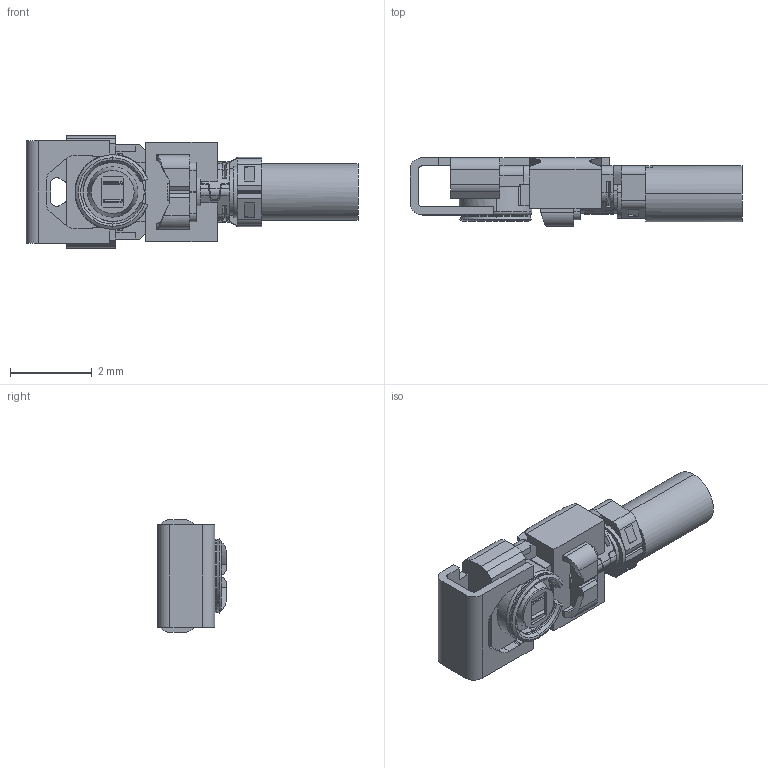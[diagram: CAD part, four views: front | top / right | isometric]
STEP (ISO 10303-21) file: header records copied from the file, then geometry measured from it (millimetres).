
FILE_DESCRIPTION (( 'STEP AP203' ), '1' );
FILE_NAME ('20632-001R-37+3615-000xC (UNLOCK) STEP R1R4 ALL.STEP', '2023-11-07T04:36:21', ( '' ), ( '' ), 'SwSTEP 2.0', 'SolidWorks 2023', '' );
FILE_SCHEMA (( 'CONFIG_CONTROL_DESIGN' ));
Length unit declared in the file: millimetre
Products named in the file (1): 20632-001R-37+3615-000xC (UNLOCK) STEP R1R4 ALL
Bounding box: 8.12 x 1.68 x 2.75 mm (x, y, z)
Volume: 17.9 mm3; surface area: 75.8 mm2
Topology: 1 solids, 1 shells, 362 faces, 1019 edges, 661 vertices
Faces by surface type: plane 222, cylinder 100, cone 21, torus 13, bspline 6
Entity records: 12254 total; most frequent: CARTESIAN_POINT 2901, ORIENTED_EDGE 2038, DIRECTION 1850, EDGE_CURVE 1019, VECTOR 688, LINE 688, VERTEX_POINT 661, AXIS2_PLACEMENT_3D 581
